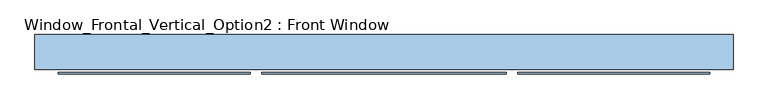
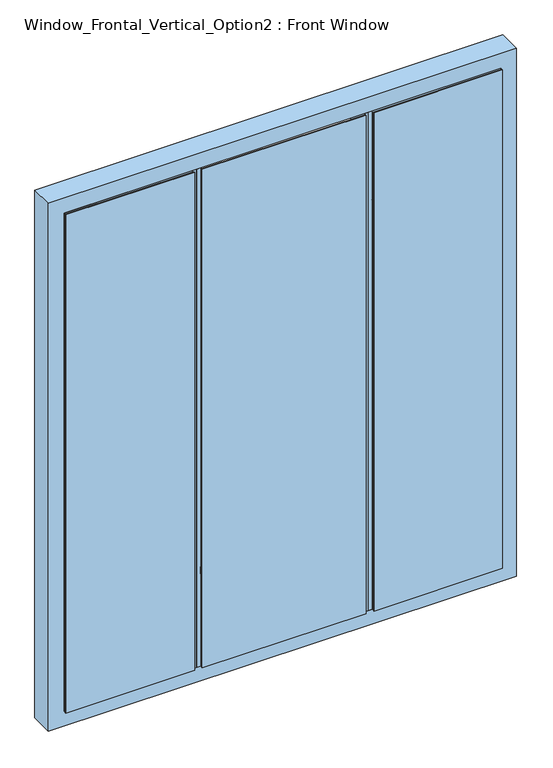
"""IFC4 building model written with IfcOpenShell, lengths in millimetres: window geometry, Window_Frontal_Vertical_Option2 : Front Window."""

from ifc_helpers import new_model, si_unit, frame, origin, place, context, project, spatial, polyline, outline, extrude, source, transform, mapped, element, save


def window_frontal_vertical_option2_front_window_3d2c31a8(model_context):
    return source(origin(), model_context, "Body", "SweptSolid", [
        extrude(outline(polyline([(914.4, 1524.0), (4546.6, 1524.0), (4546.6, -1524.0), (914.4, -1524.0), (914.4, 1524.0)]), holes=[polyline([(4445.0, 1422.4), (1016.0, 1422.4), (1016.0, -1422.4), (4445.0, -1422.4), (4445.0, 1422.4)])]), frame((0.0, -76.2, 0.0), z_axis=(0.0, 1.0, 0.0), x_axis=(0.0, 0.0, 1.0)), (0.0, 0.0, 1.0), 152.4),
        extrude(outline(polyline([(-584.2, -95.25), (-1422.4, -95.25), (-1422.4, -88.9), (-584.2, -88.9), (-584.2, -95.25)])), frame((0.0, 0.0, 1016.0), z_axis=(0.0, 0.0, 1.0), x_axis=(1.0, 0.0, 0.0)), (0.0, 0.0, 1.0), 3429.0),
        extrude(outline(polyline([(533.4, -95.25), (-533.4, -95.25), (-533.4, -88.9), (533.4, -88.9), (533.4, -95.25)])), frame((0.0, 0.0, 1016.0), z_axis=(0.0, 0.0, 1.0), x_axis=(1.0, 0.0, 0.0)), (0.0, 0.0, 1.0), 3429.0),
        extrude(outline(polyline([(1422.4, -95.25), (584.2, -95.25), (584.2, -88.9), (1422.4, -88.9), (1422.4, -95.25)])), frame((0.0, 0.0, 1016.0), z_axis=(0.0, 0.0, 1.0), x_axis=(1.0, 0.0, 0.0)), (0.0, 0.0, 1.0), 3429.0),
        extrude(outline(polyline([(558.8, 76.2), (558.8, -76.2), (533.4, -76.2), (533.4, 76.2), (558.8, 76.2)])), frame((0.0, 0.0, 1016.0), z_axis=(0.0, 0.0, 1.0), x_axis=(1.0, 0.0, 0.0)), (0.0, 0.0, 1.0), 3429.0),
        extrude(outline(polyline([(-533.4, 76.2), (-533.4, -76.2), (-558.8, -76.2), (-558.8, 76.2), (-533.4, 76.2)])), frame((0.0, 0.0, 1016.0), z_axis=(0.0, 0.0, 1.0), x_axis=(1.0, 0.0, 0.0)), (0.0, 0.0, 1.0), 3429.0),
        extrude(outline(polyline([(-558.8, 76.2), (-558.8, -76.2), (-584.2, -76.2), (-584.2, 76.2), (-558.8, 76.2)])), frame((0.0, 0.0, 1016.0), z_axis=(0.0, 0.0, 1.0), x_axis=(1.0, 0.0, 0.0)), (0.0, 0.0, 1.0), 3429.0),
        extrude(outline(polyline([(584.2, 76.2), (584.2, -76.2), (558.8, -76.2), (558.8, 76.2), (584.2, 76.2)])), frame((0.0, 0.0, 1016.0), z_axis=(0.0, 0.0, 1.0), x_axis=(1.0, 0.0, 0.0)), (0.0, 0.0, 1.0), 3429.0),
        extrude(outline(polyline([(533.4, 76.2), (533.4, -76.2), (-533.4, -76.2), (-533.4, 76.2), (533.4, 76.2)])), frame((0.0, 0.0, 1676.4), z_axis=(0.0, 0.0, 1.0), x_axis=(1.0, 0.0, 0.0)), (0.0, 0.0, 1.0), 25.4),
        extrude(outline(polyline([(-584.2, 76.2), (-584.2, -76.2), (-1422.4, -76.2), (-1422.4, 76.2), (-584.2, 76.2)])), frame((0.0, 0.0, 3733.8), z_axis=(0.0, 0.0, 1.0), x_axis=(1.0, 0.0, 0.0)), (0.0, 0.0, 1.0), 101.6),
        extrude(outline(polyline([(1422.4, 76.2), (1422.4, -76.2), (584.2, -76.2), (584.2, 76.2), (1422.4, 76.2)])), frame((0.0, 0.0, 3733.8), z_axis=(0.0, 0.0, 1.0), x_axis=(1.0, 0.0, 0.0)), (0.0, 0.0, 1.0), 101.6),
        extrude(outline(polyline([(533.4, 76.2), (533.4, -76.2), (-533.4, -76.2), (-533.4, 76.2), (533.4, 76.2)])), frame((0.0, 0.0, 1651.0), z_axis=(0.0, 0.0, 1.0), x_axis=(1.0, 0.0, 0.0)), (0.0, 0.0, 1.0), 25.4),
        extrude(outline(polyline([(4445.0, -1422.4), (3835.4, -1422.4), (3835.4, -584.2), (4445.0, -584.2), (4445.0, -1422.4)]), holes=[polyline([(3886.2, -635.0), (3886.2, -1371.6), (4394.2, -1371.6), (4394.2, -635.0), (3886.2, -635.0)])]), frame((0.0, -76.2, 0.0), z_axis=(0.0, 1.0, 0.0), x_axis=(0.0, 0.0, 1.0)), (0.0, 0.0, 1.0), 152.4),
        extrude(outline(polyline([(4445.0, 584.2), (3835.4, 584.2), (3835.4, 1422.4), (4445.0, 1422.4), (4445.0, 584.2)]), holes=[polyline([(3886.2, 1371.6), (3886.2, 635.0), (4394.2, 635.0), (4394.2, 1371.6), (3886.2, 1371.6)])]), frame((0.0, -76.2, 0.0), z_axis=(0.0, 1.0, 0.0), x_axis=(0.0, 0.0, 1.0)), (0.0, 0.0, 1.0), 152.4),
    ])


if __name__ == "__main__":
    model = new_model("IFC4")
    model_context = context("Model", 3, world=origin())
    ifc_project = project(units=[si_unit("LENGTHUNIT", "METRE", prefix="MILLI")], contexts=[model_context])
    site = spatial("IfcSite", under=ifc_project)
    building = spatial("IfcBuilding", under=site)
    placement = place(None, origin())
    window_frontal_vertical_option2_front_window_shape = window_frontal_vertical_option2_front_window_3d2c31a8(model_context)
    element("IfcWindow", 1, ObjectType="Window_Frontal_Vertical_Option2 : Front Window", at=placement, inside=building, context=model_context, shape_type="MappedRepresentation", body=[
        mapped(window_frontal_vertical_option2_front_window_shape, transform((0.0, 0.0, 0.0), x_axis=(1.0, 0.0, 0.0), y_axis=(0.0, 1.0, 0.0), z_axis=(0.0, 0.0, 1.0))),
    ])
    save(model, "model.ifc")
